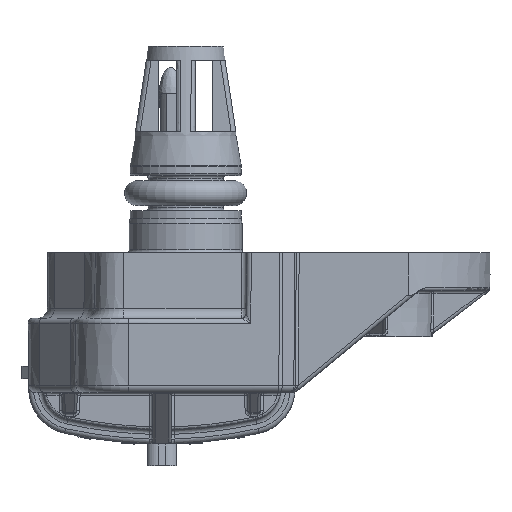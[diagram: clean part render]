
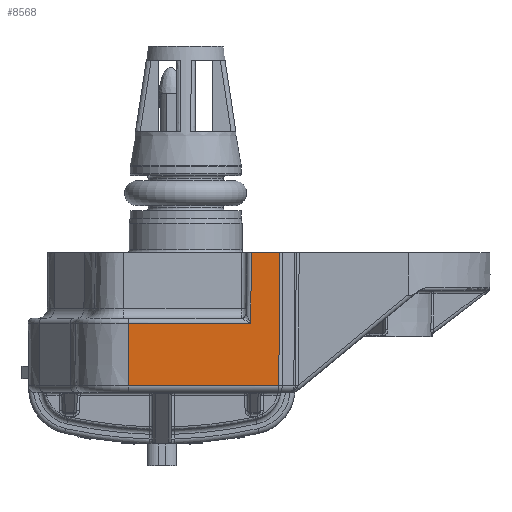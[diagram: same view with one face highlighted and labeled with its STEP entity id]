
A CAD part, front view. The second image highlights one B-rep face of the part: STEP entity #8568.
In plain terms, the highlighted planar face has unit normal (0, -1, -0.009).
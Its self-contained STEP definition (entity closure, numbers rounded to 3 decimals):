
#2334=FACE_OUTER_BOUND('',#11152,.T.);
#4371=LINE('',#43192,#6156);
#4418=LINE('',#43564,#6203);
#4419=LINE('',#43568,#6204);
#4420=LINE('',#43570,#6205);
#4421=LINE('',#43571,#6206);
#4422=LINE('',#43573,#6207);
#6156=VECTOR('',#33382,1.);
#6203=VECTOR('',#33511,1.);
#6204=VECTOR('',#33516,1.);
#6205=VECTOR('',#33517,1.);
#6206=VECTOR('',#33518,1.);
#6207=VECTOR('',#33519,1.);
#8568=ADVANCED_FACE('',(#2334),#10312,.T.);
#10312=PLANE('',#29735);
#11152=EDGE_LOOP('',(#13948,#13949,#13950,#13951,#13952,#13953));
#13948=ORIENTED_EDGE('',*,*,#24774,.T.);
#13949=ORIENTED_EDGE('',*,*,#24776,.T.);
#13950=ORIENTED_EDGE('',*,*,#24777,.T.);
#13951=ORIENTED_EDGE('',*,*,#24677,.T.);
#13952=ORIENTED_EDGE('',*,*,#24778,.T.);
#13953=ORIENTED_EDGE('',*,*,#24779,.T.);
#22069=VERTEX_POINT('',#43191);
#22070=VERTEX_POINT('',#43193);
#22154=VERTEX_POINT('',#43563);
#22155=VERTEX_POINT('',#43565);
#22156=VERTEX_POINT('',#43569);
#22157=VERTEX_POINT('',#43572);
#24677=EDGE_CURVE('',#22070,#22069,#4371,.T.);
#24774=EDGE_CURVE('',#22155,#22154,#4418,.T.);
#24776=EDGE_CURVE('',#22154,#22156,#4419,.T.);
#24777=EDGE_CURVE('',#22156,#22070,#4420,.T.);
#24778=EDGE_CURVE('',#22069,#22157,#4421,.T.);
#24779=EDGE_CURVE('',#22157,#22155,#4422,.T.);
#29735=AXIS2_PLACEMENT_3D('',#43574,#33520,#33521);
#33382=DIRECTION('',(-1.,0.,0.));
#33511=DIRECTION('',(0.,0.009,-1.));
#33516=DIRECTION('',(1.,0.,0.));
#33517=DIRECTION('',(0.004,-0.009,1.));
#33518=DIRECTION('',(-0.009,0.009,-1.));
#33519=DIRECTION('',(-1.,0.,0.));
#33520=DIRECTION('',(0.,-1.,-0.009));
#33521=DIRECTION('',(0.,-0.009,1.));
#43191=CARTESIAN_POINT('',(6.9,-13.628,0.));
#43192=CARTESIAN_POINT('',(-11.,-13.628,0.));
#43193=CARTESIAN_POINT('',(9.846,-13.628,0.));
#43563=CARTESIAN_POINT('',(-6.,-13.506,-14.006));
#43564=CARTESIAN_POINT('',(-6.,-13.5,-14.7));
#43565=CARTESIAN_POINT('',(-6.,-13.564,-7.404));
#43568=CARTESIAN_POINT('',(9.793,-13.506,-14.006));
#43569=CARTESIAN_POINT('',(9.795,-13.506,-14.006));
#43570=CARTESIAN_POINT('',(9.793,-13.5,-14.72));
#43571=CARTESIAN_POINT('',(6.772,-13.5,-14.721));
#43572=CARTESIAN_POINT('',(6.835,-13.564,-7.404));
#43573=CARTESIAN_POINT('',(4.325,-13.564,-7.404));
#43574=CARTESIAN_POINT('',(4.325,-13.5,-14.7));
